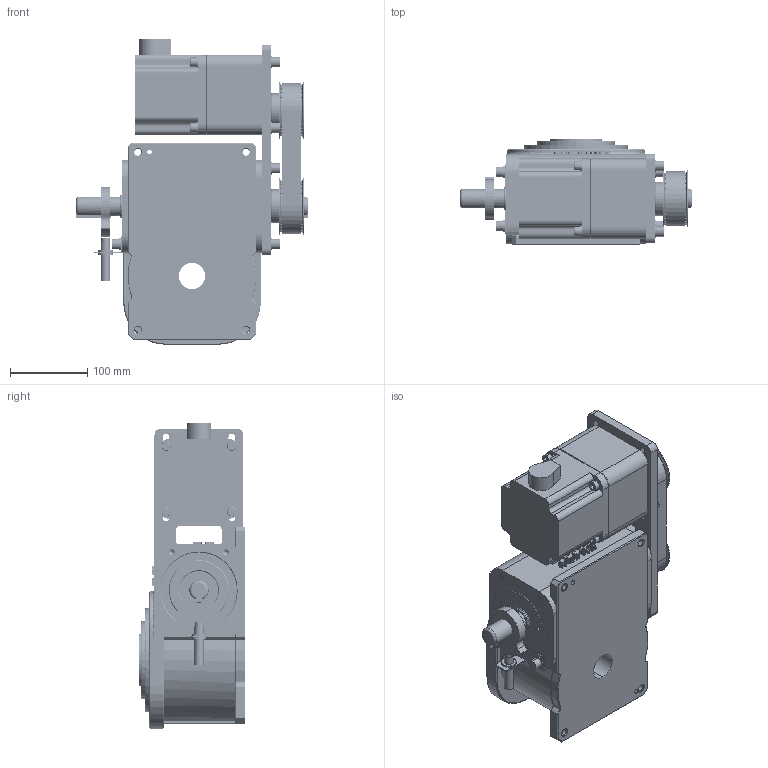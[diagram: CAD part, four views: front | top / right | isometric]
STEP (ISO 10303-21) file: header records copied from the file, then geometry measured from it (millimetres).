
FILE_DESCRIPTION (( 'STEP AP214' ), '1' );
FILE_NAME ('ER-RU90DA英锐凸轮分割器固定盘壳体法兰面销孔3D水平带轮式右侧前方ZDWS(电话15062628977)AA.STEP', '2022-07-23T08:35:43', ( '微软用户' ), ( '微软中国' ), 'SwSTEP 2.0', 'SolidWorks 2017', '' );
FILE_SCHEMA (( 'AUTOMOTIVE_DESIGN' ));
Length unit declared in the file: millimetre
Products named in the file (1): ER-RU90DA英锐凸轮分割器固定盘壳体法兰面销孔3D水平带轮式右侧前方ZDWS(电话15062628977)AA
Bounding box: 300 x 138 x 395 mm (x, y, z)
Volume: 6969169.1 mm3; surface area: 475319.6 mm2
Topology: 5 solids, 11 shells, 2372 faces, 6032 edges, 3831 vertices
Faces by surface type: plane 949, cylinder 868, bspline 359, cone 165, torus 31
Entity records: 146649 total; most frequent: CARTESIAN_POINT 92329, ORIENTED_EDGE 11976, DIRECTION 9224, EDGE_CURVE 5988, VERTEX_POINT 3831, AXIS2_PLACEMENT_3D 3086, LINE 3052, VECTOR 3052
